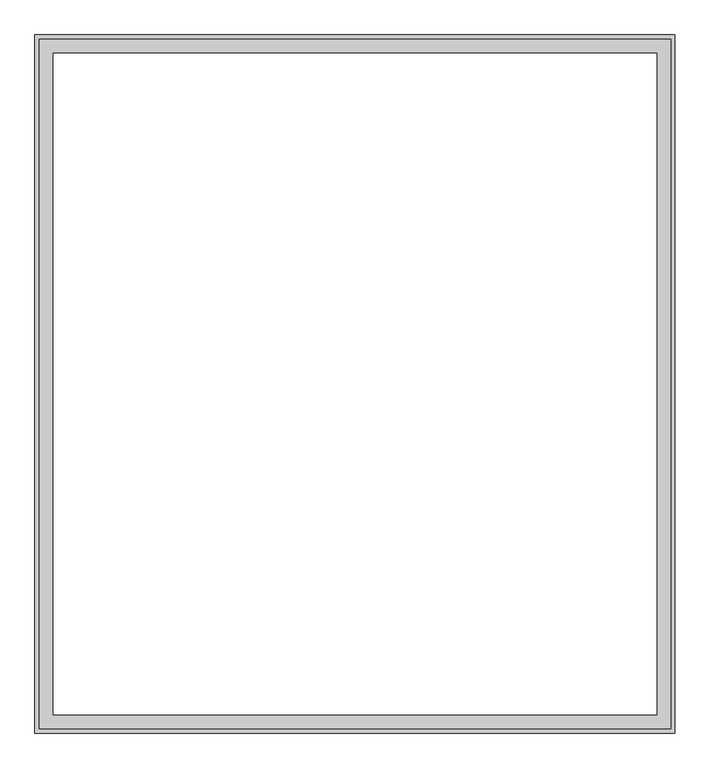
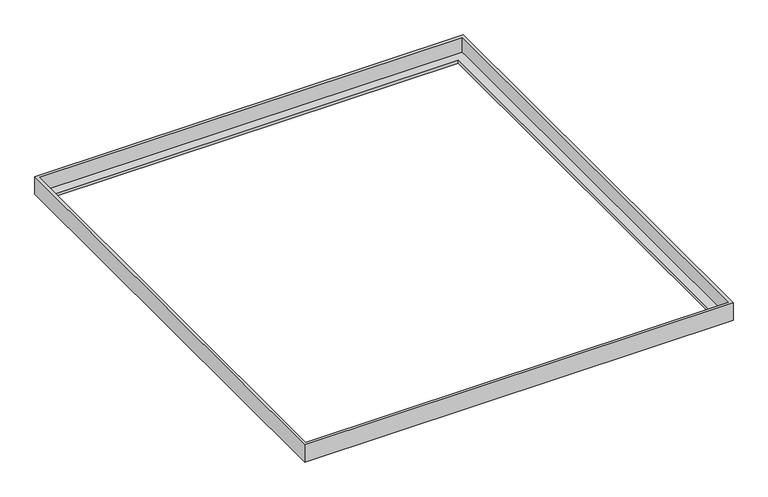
"""IFC4 building model written with IfcOpenShell, lengths in millimetres: proxy geometry, 线条 : 线条."""

from ifc_helpers import new_model, si_unit, origin, place, context, project, spatial, faceted_brep, source, transform, mapped, element, save


def generic_models_b7c912bf(model_context):
    return source(origin(), model_context, "Body", "Brep", [
        faceted_brep([(-7564.0293904, 16168.7732284, 3270.0), (-7564.0293904, 16168.7732284, 3900.0), (-7564.0293904, -2791.2267716, 3900.0), (-7564.0293904, -2791.2267716, 3270.0), (-7184.0293904, 15788.7732284, 3150.0), (-7184.0293904, 15788.7732284, 3270.0), (-7184.0293904, -2411.2267716, 3270.0), (-7184.0293904, -2411.2267716, 3150.0), (-7684.0293904, 16288.7732284, 3900.0), (-7684.0293904, 16288.7732284, 3150.0), (-7684.0293904, -2911.2267716, 3150.0), (-7684.0293904, -2911.2267716, 3900.0), (9795.9706096, -2791.2267716, 3270.0), (9795.9706096, -2791.2267716, 3900.0), (9795.9706096, 16168.7732284, 3900.0), (9795.9706096, 16168.7732284, 3270.0), (9415.9706096, -2411.2267716, 3150.0), (9415.9706096, -2411.2267716, 3270.0), (9415.9706096, 15788.7732284, 3270.0), (9415.9706096, 15788.7732284, 3150.0), (9915.9706096, -2911.2267716, 3900.0), (9915.9706096, -2911.2267716, 3150.0), (9915.9706096, 16288.7732284, 3150.0), (9915.9706096, 16288.7732284, 3900.0)], [[[0, 1, 2, 3]], [[4, 5, 6, 7]], [[8, 9, 10, 11]], [[12, 13, 14, 15]], [[16, 17, 18, 19]], [[20, 21, 22, 23]], [[15, 14, 1, 0]], [[19, 18, 5, 4]], [[23, 22, 9, 8]], [[3, 2, 13, 12]], [[12, 15, 0, 3], [17, 6, 5, 18]], [[7, 6, 17, 16]], [[21, 10, 9, 22], [16, 19, 4, 7]], [[11, 10, 21, 20]], [[20, 23, 8, 11], [13, 2, 1, 14]]]),
    ])


if __name__ == "__main__":
    model = new_model("IFC4")
    model_context = context("Model", 3, world=origin())
    ifc_project = project(units=[si_unit("LENGTHUNIT", "METRE", prefix="MILLI")], contexts=[model_context])
    site = spatial("IfcSite", under=ifc_project)
    building = spatial("IfcBuilding", under=site)
    placement = place(None, origin())
    generic_models_shape = generic_models_b7c912bf(model_context)
    element("IfcBuildingElementProxy", 1, Name="线条 : 线条", ObjectType="线条 : 线条", at=placement, inside=building, context=model_context, shape_type="MappedRepresentation", body=[
        mapped(generic_models_shape, transform((0.0, 0.0, 0.0), x_axis=(1.0, 0.0, 0.0), y_axis=(0.0, 1.0, 0.0), z_axis=(0.0, 0.0, 1.0))),
    ])
    save(model, "model.ifc")
